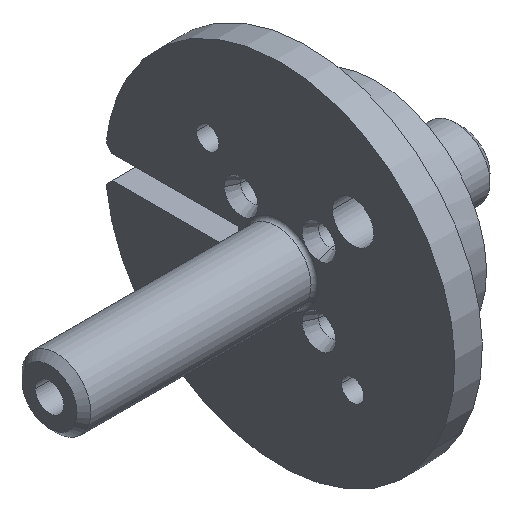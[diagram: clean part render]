
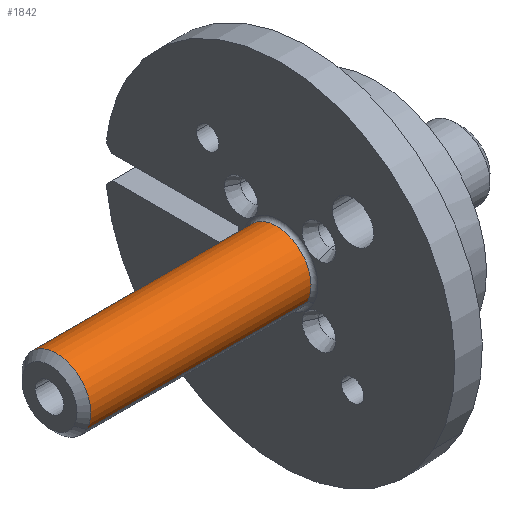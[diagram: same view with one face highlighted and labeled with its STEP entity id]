
A CAD part, isometric view. The second image highlights one B-rep face of the part: STEP entity #1842.
In plain terms, the highlighted cylindrical face has radius 5 mm (diameter 10 mm), a partial arc.
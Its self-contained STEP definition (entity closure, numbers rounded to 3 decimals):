
#81=CARTESIAN_POINT('Vertex',(-0.5,-4.388,-2.397)) ;
#88=CARTESIAN_POINT('Vertex',(-0.5,4.388,2.397)) ;
#1415=CARTESIAN_POINT('Axis2P3D Location',(-3.5,0.,0.)) ;
#1805=CARTESIAN_POINT('Axis2P3D Location',(-0.5,0.,0.)) ;
#1817=CARTESIAN_POINT('Line Origine',(-3.5,-4.388,-2.397)) ;
#1821=CARTESIAN_POINT('Vertex',(-32.5,-4.388,-2.397)) ;
#1824=CARTESIAN_POINT('Line Origine',(-3.5,4.388,2.397)) ;
#1828=CARTESIAN_POINT('Vertex',(-32.5,4.388,2.397)) ;
#1831=CARTESIAN_POINT('Axis2P3D Location',(-32.5,0.,0.)) ;
#1819=VECTOR('Line Direction',#1818,1.) ;
#1826=VECTOR('Line Direction',#1825,1.) ;
#1416=DIRECTION('Axis2P3D Direction',(1.,0.,0.)) ;
#1417=DIRECTION('Axis2P3D XDirection',(0.,0.878,0.479)) ;
#1806=DIRECTION('Axis2P3D Direction',(1.,-0.,0.)) ;
#1818=DIRECTION('Vector Direction',(1.,0.,0.)) ;
#1825=DIRECTION('Vector Direction',(1.,0.,0.)) ;
#1832=DIRECTION('Axis2P3D Direction',(1.,0.,0.)) ;
#1418=AXIS2_PLACEMENT_3D('Cylinder Axis2P3D',#1415,#1416,#1417) ;
#1807=AXIS2_PLACEMENT_3D('Circle Axis2P3D',#1805,#1806,$) ;
#1833=AXIS2_PLACEMENT_3D('Circle Axis2P3D',#1831,#1832,$) ;
#1820=LINE('Line',#1817,#1819) ;
#1827=LINE('Line',#1824,#1826) ;
#1808=CIRCLE('generated circle',#1807,5.) ;
#1834=CIRCLE('generated circle',#1833,5.) ;
#1419=CYLINDRICAL_SURFACE('generated cylinder',#1418,5.) ;
#1809=EDGE_CURVE('',#82,#89,#1808,.F.) ;
#1823=EDGE_CURVE('',#82,#1822,#1820,.F.) ;
#1830=EDGE_CURVE('',#89,#1829,#1827,.F.) ;
#1835=EDGE_CURVE('',#1829,#1822,#1834,.T.) ;
#1836=EDGE_LOOP('',(#1837,#1838,#1839,#1840)) ;
#1837=ORIENTED_EDGE('',*,*,#1823,.F.) ;
#1838=ORIENTED_EDGE('',*,*,#1809,.T.) ;
#1839=ORIENTED_EDGE('',*,*,#1830,.T.) ;
#1840=ORIENTED_EDGE('',*,*,#1835,.T.) ;
#82=VERTEX_POINT('',#81) ;
#89=VERTEX_POINT('',#88) ;
#1822=VERTEX_POINT('',#1821) ;
#1829=VERTEX_POINT('',#1828) ;
#1842=ADVANCED_FACE('PartBody',(#1841),#1419,.T.) ;
#1841=FACE_OUTER_BOUND('',#1836,.T.) ;
